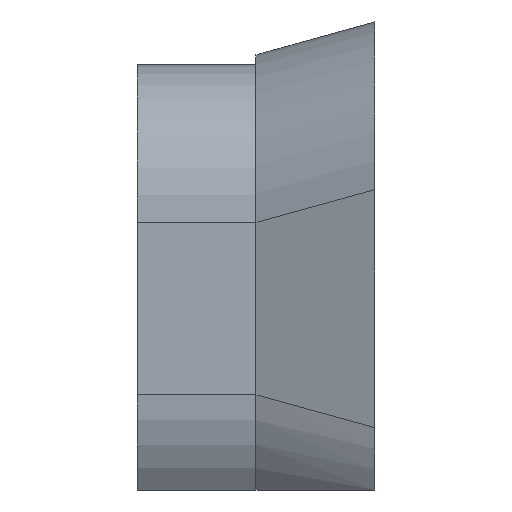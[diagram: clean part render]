
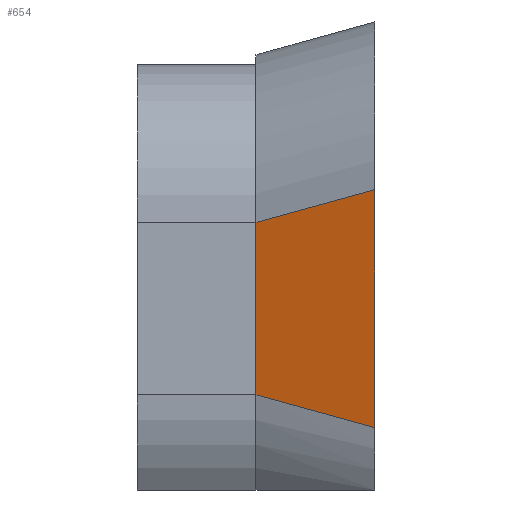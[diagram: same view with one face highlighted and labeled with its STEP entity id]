
A CAD part, front view. The second image highlights one B-rep face of the part: STEP entity #654.
In plain terms, the highlighted free-form (B-spline) face has degree [1, 1] with [2, 2] control points.
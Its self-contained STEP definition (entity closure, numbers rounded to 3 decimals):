
#42 = VERTEX_POINT('',#43);
#43 = CARTESIAN_POINT('',(68.6,22.138,7.25));
#50 = EDGE_CURVE('',#42,#51,#53,.T.);
#51 = VERTEX_POINT('',#52);
#52 = CARTESIAN_POINT('',(68.6,22.138,6.09));
#53 = LINE('',#54,#55);
#54 = CARTESIAN_POINT('',(68.6,22.138,7.25));
#55 = VECTOR('',#56,1.);
#56 = DIRECTION('',(0.,0.,-1.));
#184 = EDGE_CURVE('',#42,#185,#187,.T.);
#185 = VERTEX_POINT('',#186);
#186 = CARTESIAN_POINT('',(69.4,21.858,7.47));
#187 = B_SPLINE_CURVE_WITH_KNOTS('',1,(#188,#189),.UNSPECIFIED.,.F.,.F.,
  (2,2),(0.,1.),.PIECEWISE_BEZIER_KNOTS.);
#188 = CARTESIAN_POINT('',(68.6,22.138,7.25));
#189 = CARTESIAN_POINT('',(69.4,21.858,7.47));
#622 = EDGE_CURVE('',#51,#623,#625,.T.);
#623 = VERTEX_POINT('',#624);
#624 = CARTESIAN_POINT('',(69.4,21.858,5.87));
#625 = B_SPLINE_CURVE_WITH_KNOTS('',1,(#626,#627),.UNSPECIFIED.,.F.,.F.,
  (2,2),(0.,1.),.PIECEWISE_BEZIER_KNOTS.);
#626 = CARTESIAN_POINT('',(68.6,22.138,6.09));
#627 = CARTESIAN_POINT('',(69.4,21.858,5.87));
#654 = ADVANCED_FACE('',(#655),#666,.T.);
#655 = FACE_BOUND('',#656,.T.);
#656 = EDGE_LOOP('',(#657,#658,#659,#665));
#657 = ORIENTED_EDGE('',*,*,#50,.T.);
#658 = ORIENTED_EDGE('',*,*,#622,.T.);
#659 = ORIENTED_EDGE('',*,*,#660,.F.);
#660 = EDGE_CURVE('',#185,#623,#661,.T.);
#661 = LINE('',#662,#663);
#662 = CARTESIAN_POINT('',(69.4,21.858,7.47));
#663 = VECTOR('',#664,1.);
#664 = DIRECTION('',(0.,0.,-1.));
#665 = ORIENTED_EDGE('',*,*,#184,.F.);
#666 = B_SPLINE_SURFACE_WITH_KNOTS('',1,1,(
    (#667,#668)
    ,(#669,#670
  )),.UNSPECIFIED.,.F.,.F.,.F.,(2,2),(2,2),(0.,1.6),(0.,1.),
  .PIECEWISE_BEZIER_KNOTS.);
#667 = CARTESIAN_POINT('',(68.6,22.138,7.25));
#668 = CARTESIAN_POINT('',(69.4,21.858,7.47));
#669 = CARTESIAN_POINT('',(68.6,22.138,6.09));
#670 = CARTESIAN_POINT('',(69.4,21.858,5.87));
